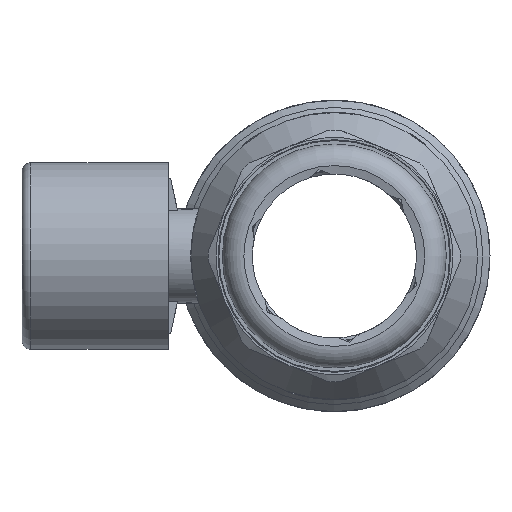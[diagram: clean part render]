
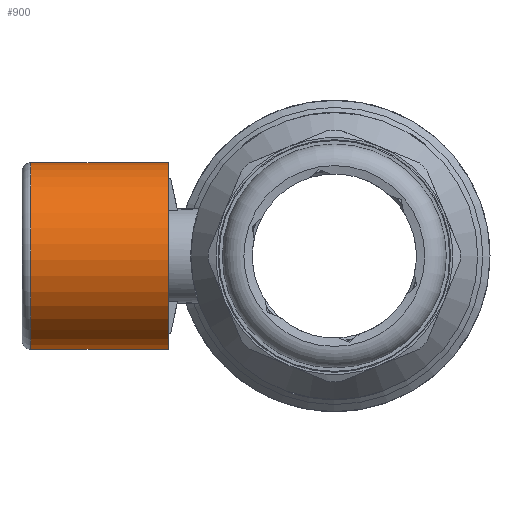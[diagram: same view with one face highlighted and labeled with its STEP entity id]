
A CAD part, left-side view. The second image highlights one B-rep face of the part: STEP entity #900.
In plain terms, the highlighted cylindrical face has radius 21.7 mm (diameter 43.4 mm), a full revolution.
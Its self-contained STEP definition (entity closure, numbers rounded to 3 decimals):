
#858=CARTESIAN_POINT('',(3.003,70.5,21.517));
#859=VERTEX_POINT('',#858);
#860=CARTESIAN_POINT('',(0.189,70.5,0.));
#861=DIRECTION('',(0.0,1.0,0.0));
#862=DIRECTION('',(0.13,0.0,0.992));
#863=AXIS2_PLACEMENT_3D('',#860,#861,#862);
#864=CIRCLE('',#863,21.7);
#865=EDGE_CURVE('',#859,#859,#864,.T.);
#881=CARTESIAN_POINT('',(0.189,54.5,0.0));
#882=DIRECTION('',(0.0,1.0,0.0));
#883=DIRECTION('',(-0.992,0.0,0.13));
#884=AXIS2_PLACEMENT_3D('',#881,#882,#883);
#885=CYLINDRICAL_SURFACE('',#884,21.7);
#886=CARTESIAN_POINT('',(3.003,38.5,21.517));
#887=VERTEX_POINT('',#886);
#888=CARTESIAN_POINT('',(0.189,38.5,0.));
#889=DIRECTION('',(0.0,1.0,0.0));
#890=DIRECTION('',(0.13,0.0,0.992));
#891=AXIS2_PLACEMENT_3D('',#888,#889,#890);
#892=CIRCLE('',#891,21.7);
#893=EDGE_CURVE('',#887,#887,#892,.T.);
#894=ORIENTED_EDGE('',*,*,#893,.T.);
#895=EDGE_LOOP('',(#894));
#896=FACE_OUTER_BOUND('',#895,.T.);
#897=ORIENTED_EDGE('',*,*,#865,.F.);
#898=EDGE_LOOP('',(#897));
#899=FACE_BOUND('',#898,.T.);
#900=ADVANCED_FACE('',(#896,#899),#885,.T.);
